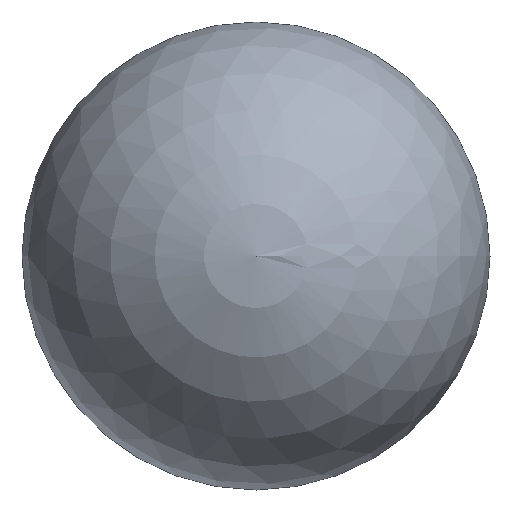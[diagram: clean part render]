
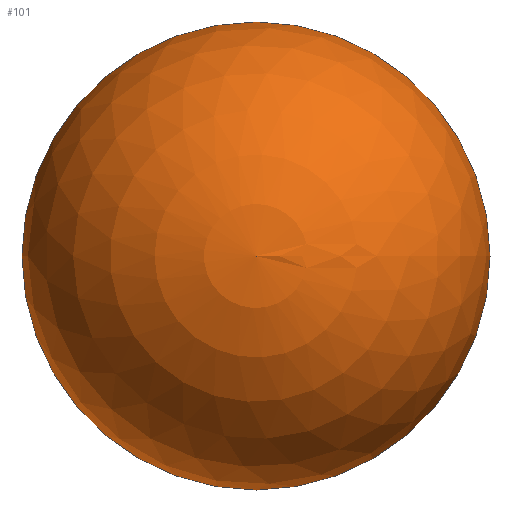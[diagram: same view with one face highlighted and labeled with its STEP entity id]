
A CAD part, front view. The second image highlights one B-rep face of the part: STEP entity #101.
In plain terms, the highlighted spherical face has radius 19.65 mm.
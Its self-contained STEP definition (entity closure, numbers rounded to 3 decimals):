
#2 = CARTESIAN_POINT ( 'NONE',  ( 0., 0., 19.65 ) ) ;
#3 = DIRECTION ( 'NONE',  ( 0., -1., 0. ) ) ;
#15 = DIRECTION ( 'NONE',  ( 0., 0., 1. ) ) ;
#23 = EDGE_CURVE ( 'NONE', #119, #102, #109, .T. ) ;
#24 = DIRECTION ( 'NONE',  ( 1., 0., 0. ) ) ;
#31 = DIRECTION ( 'NONE',  ( 1., 0., 0. ) ) ;
#32 = CARTESIAN_POINT ( 'NONE',  ( 0., 0., -19.65 ) ) ;
#48 = AXIS2_PLACEMENT_3D ( 'NONE', #90, #111, #24 ) ;
#49 = EDGE_LOOP ( 'NONE', ( #67, #71 ) ) ;
#54 = CIRCLE ( 'NONE', #48, 19.65 ) ;
#67 = ORIENTED_EDGE ( 'NONE', *, *, #23, .F. ) ;
#71 = ORIENTED_EDGE ( 'NONE', *, *, #86, .T. ) ;
#76 = AXIS2_PLACEMENT_3D ( 'NONE', #122, #92, #15 ) ;
#82 = FACE_OUTER_BOUND ( 'NONE', #49, .T. ) ;
#83 = SPHERICAL_SURFACE ( 'NONE', #110, 19.65 ) ;
#86 = EDGE_CURVE ( 'NONE', #119, #102, #54, .T. ) ;
#90 = CARTESIAN_POINT ( 'NONE',  ( 0., 0., 0. ) ) ;
#92 = DIRECTION ( 'NONE',  ( 0., 1., 0. ) ) ;
#101 = ADVANCED_FACE ( 'NONE', ( #82 ), #83, .T. ) ;
#102 = VERTEX_POINT ( 'NONE', #32 ) ;
#103 = CARTESIAN_POINT ( 'NONE',  ( 0., 0., 0. ) ) ;
#109 = CIRCLE ( 'NONE', #76, 19.65 ) ;
#110 = AXIS2_PLACEMENT_3D ( 'NONE', #103, #3, #31 ) ;
#111 = DIRECTION ( 'NONE',  ( 0., -1., 0. ) ) ;
#119 = VERTEX_POINT ( 'NONE', #2 ) ;
#122 = CARTESIAN_POINT ( 'NONE',  ( 0., 0., 0. ) ) ;
